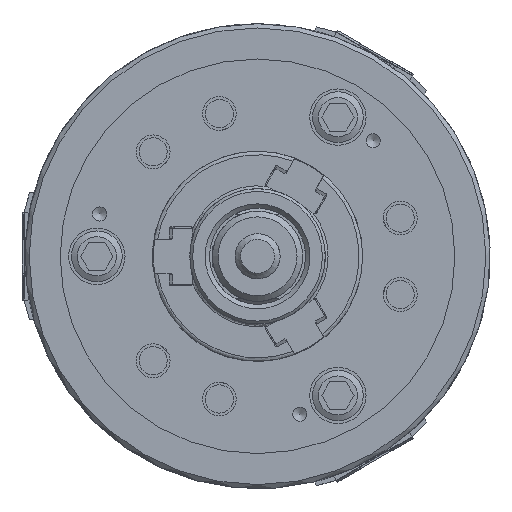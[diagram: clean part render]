
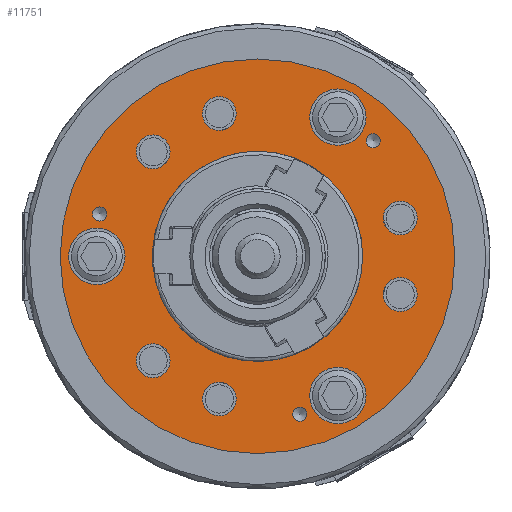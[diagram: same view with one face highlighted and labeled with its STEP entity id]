
A CAD part, left-side view. The second image highlights one B-rep face of the part: STEP entity #11751.
In plain terms, the highlighted planar face has unit normal (-1, 0, 0).
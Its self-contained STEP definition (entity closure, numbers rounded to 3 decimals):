
#518 = ORIENTED_EDGE ( 'NONE', *, *, #45012, .T. ) ;
#1409 = AXIS2_PLACEMENT_3D ( 'NONE', #8717, #12279, #38154 ) ;
#1432 = ORIENTED_EDGE ( 'NONE', *, *, #37770, .T. ) ;
#1449 = VERTEX_POINT ( 'NONE', #36641 ) ;
#1497 = VERTEX_POINT ( 'NONE', #13667 ) ;
#1733 = DIRECTION ( 'NONE',  ( 0., -0.866, -0.5 ) ) ;
#1902 = FACE_BOUND ( 'NONE', #5805, .T. ) ;
#2223 = EDGE_LOOP ( 'NONE', ( #34121 ) ) ;
#2481 = CARTESIAN_POINT ( 'NONE',  ( -69., 57., 10. ) ) ;
#3218 = EDGE_CURVE ( 'NONE', #41413, #41413, #17846, .T. ) ;
#3341 = DIRECTION ( 'NONE',  ( 0., 0.866, 0.5 ) ) ;
#3453 = DIRECTION ( 'NONE',  ( 0., 0., 1. ) ) ;
#3558 = EDGE_LOOP ( 'NONE', ( #46070 ) ) ;
#4256 = EDGE_CURVE ( 'NONE', #27614, #27614, #47270, .T. ) ;
#4536 = CARTESIAN_POINT ( 'NONE',  ( -69., 57., 0. ) ) ;
#4656 = CIRCLE ( 'NONE', #19337, 37.3 ) ;
#4835 = FACE_BOUND ( 'NONE', #3558, .T. ) ;
#5482 = AXIS2_PLACEMENT_3D ( 'NONE', #36402, #30079, #3341 ) ;
#5639 = EDGE_LOOP ( 'NONE', ( #19693 ) ) ;
#5763 = AXIS2_PLACEMENT_3D ( 'NONE', #4536, #24316, #8560 ) ;
#5805 = EDGE_LOOP ( 'NONE', ( #30756 ) ) ;
#6270 = CIRCLE ( 'NONE', #1409, 6. ) ;
#6331 = AXIS2_PLACEMENT_3D ( 'NONE', #37115, #26129, #25960 ) ;
#6560 = CARTESIAN_POINT ( 'NONE',  ( -69., -19.84, 54.363 ) ) ;
#6873 = CARTESIAN_POINT ( 'NONE',  ( -69., 37.045, 31.045 ) ) ;
#7354 = ORIENTED_EDGE ( 'NONE', *, *, #20054, .T. ) ;
#7422 = CARTESIAN_POINT ( 'NONE',  ( -69., -41.012, 41.012 ) ) ;
#7869 = VERTEX_POINT ( 'NONE', #35354 ) ;
#8046 = CIRCLE ( 'NONE', #28344, 10. ) ;
#8560 = DIRECTION ( 'NONE',  ( 0., 0., 1. ) ) ;
#8717 = CARTESIAN_POINT ( 'NONE',  ( -69., 13.56, -50.605 ) ) ;
#9457 = FACE_BOUND ( 'NONE', #30395, .T. ) ;
#9490 = CARTESIAN_POINT ( 'NONE',  ( -69., 56.024, 17.512 ) ) ;
#9589 = AXIS2_PLACEMENT_3D ( 'NONE', #34429, #38128, #23091 ) ;
#9833 = DIRECTION ( 'NONE',  ( 0., 0., 1. ) ) ;
#10285 = CARTESIAN_POINT ( 'NONE',  ( -69., -41.012, 43.512 ) ) ;
#10615 = FACE_BOUND ( 'NONE', #2223, .T. ) ;
#10723 = DIRECTION ( 'NONE',  ( 0., 0., 1. ) ) ;
#11751 = ADVANCED_FACE ( 'NONE', ( #40121, #41270, #36113, #1902, #10615, #38420, #38971, #19305, #9457, #4835, #43070, #33205, #23389, #13528 ), #29968, .T. ) ;
#12279 = DIRECTION ( 'NONE',  ( 1., 0., 0. ) ) ;
#12771 = ORIENTED_EDGE ( 'NONE', *, *, #33494, .F. ) ;
#12843 = EDGE_CURVE ( 'NONE', #19454, #19454, #21462, .T. ) ;
#13528 = FACE_BOUND ( 'NONE', #38980, .T. ) ;
#13667 = CARTESIAN_POINT ( 'NONE',  ( -69., 0., 37.3 ) ) ;
#13955 = DIRECTION ( 'NONE',  ( 0., 0., -1. ) ) ;
#14348 = EDGE_LOOP ( 'NONE', ( #24301 ) ) ;
#14460 = ORIENTED_EDGE ( 'NONE', *, *, #43794, .F. ) ;
#14756 = DIRECTION ( 'NONE',  ( 1., 0., 0. ) ) ;
#14856 = ORIENTED_EDGE ( 'NONE', *, *, #32059, .T. ) ;
#16533 = VERTEX_POINT ( 'NONE', #9490 ) ;
#16943 = EDGE_LOOP ( 'NONE', ( #41231 ) ) ;
#17569 = CARTESIAN_POINT ( 'NONE',  ( -69., 8.363, -47.605 ) ) ;
#17846 = CIRCLE ( 'NONE', #23394, 70. ) ;
#18902 = EDGE_CURVE ( 'NONE', #1497, #1497, #4656, .T. ) ;
#19176 = AXIS2_PLACEMENT_3D ( 'NONE', #28179, #28322, #35106 ) ;
#19305 = FACE_OUTER_BOUND ( 'NONE', #14348, .T. ) ;
#19337 = AXIS2_PLACEMENT_3D ( 'NONE', #40150, #14756, #10723 ) ;
#19454 = VERTEX_POINT ( 'NONE', #2481 ) ;
#19585 = CIRCLE ( 'NONE', #29246, 2.5 ) ;
#19630 = CIRCLE ( 'NONE', #24294, 6. ) ;
#19693 = ORIENTED_EDGE ( 'NONE', *, *, #37997, .F. ) ;
#19958 = VERTEX_POINT ( 'NONE', #47602 ) ;
#20054 = EDGE_CURVE ( 'NONE', #26407, #26407, #8046, .T. ) ;
#20152 = CARTESIAN_POINT ( 'NONE',  ( -69., -15.012, -53.524 ) ) ;
#20208 = CARTESIAN_POINT ( 'NONE',  ( -69., 13.56, 50.605 ) ) ;
#21155 = CIRCLE ( 'NONE', #19176, 2.5 ) ;
#21462 = CIRCLE ( 'NONE', #5763, 10. ) ;
#21536 = EDGE_LOOP ( 'NONE', ( #518 ) ) ;
#23091 = DIRECTION ( 'NONE',  ( 0., 0.866, 0.5 ) ) ;
#23389 = FACE_BOUND ( 'NONE', #31875, .T. ) ;
#23394 = AXIS2_PLACEMENT_3D ( 'NONE', #40315, #44225, #13955 ) ;
#23578 = CARTESIAN_POINT ( 'NONE',  ( -69., 0., -70. ) ) ;
#24294 = AXIS2_PLACEMENT_3D ( 'NONE', #35121, #46254, #34962 ) ;
#24301 = ORIENTED_EDGE ( 'NONE', *, *, #3218, .F. ) ;
#24316 = DIRECTION ( 'NONE',  ( -1., 0., 0. ) ) ;
#24558 = CARTESIAN_POINT ( 'NONE',  ( -69., 8.363, 47.605 ) ) ;
#25650 = CIRCLE ( 'NONE', #9589, 10. ) ;
#25896 = DIRECTION ( 'NONE',  ( -1., 0., 0. ) ) ;
#25960 = DIRECTION ( 'NONE',  ( 0., 0., 1. ) ) ;
#26129 = DIRECTION ( 'NONE',  ( -1., 0., 0. ) ) ;
#26407 = VERTEX_POINT ( 'NONE', #42784 ) ;
#26675 = CIRCLE ( 'NONE', #5482, 6. ) ;
#27614 = VERTEX_POINT ( 'NONE', #20152 ) ;
#28074 = AXIS2_PLACEMENT_3D ( 'NONE', #28532, #47091, #43849 ) ;
#28136 = CARTESIAN_POINT ( 'NONE',  ( -69., -28.5, -49.363 ) ) ;
#28179 = CARTESIAN_POINT ( 'NONE',  ( -69., 56.024, 15.012 ) ) ;
#28322 = DIRECTION ( 'NONE',  ( -1., 0., 0. ) ) ;
#28344 = AXIS2_PLACEMENT_3D ( 'NONE', #28136, #40343, #47768 ) ;
#28532 = CARTESIAN_POINT ( 'NONE',  ( -69., -50.605, -13.56 ) ) ;
#28788 = CARTESIAN_POINT ( 'NONE',  ( -69., -15.012, -56.024 ) ) ;
#29246 = AXIS2_PLACEMENT_3D ( 'NONE', #7422, #25896, #32962 ) ;
#29968 = PLANE ( 'NONE',  #6331 ) ;
#30079 = DIRECTION ( 'NONE',  ( 1., 0., 0. ) ) ;
#30395 = EDGE_LOOP ( 'NONE', ( #14856 ) ) ;
#30756 = ORIENTED_EDGE ( 'NONE', *, *, #12843, .F. ) ;
#31000 = CIRCLE ( 'NONE', #39017, 6. ) ;
#31008 = VERTEX_POINT ( 'NONE', #10285 ) ;
#31875 = EDGE_LOOP ( 'NONE', ( #35653 ) ) ;
#32059 = EDGE_CURVE ( 'NONE', #7869, #7869, #26675, .T. ) ;
#32591 = CIRCLE ( 'NONE', #28074, 6. ) ;
#32962 = DIRECTION ( 'NONE',  ( 0., 0., 1. ) ) ;
#33205 = FACE_BOUND ( 'NONE', #47414, .T. ) ;
#33494 = EDGE_CURVE ( 'NONE', #39683, #39683, #31000, .T. ) ;
#33577 = EDGE_CURVE ( 'NONE', #16533, #16533, #21155, .T. ) ;
#34015 = EDGE_LOOP ( 'NONE', ( #7354 ) ) ;
#34121 = ORIENTED_EDGE ( 'NONE', *, *, #18902, .T. ) ;
#34429 = CARTESIAN_POINT ( 'NONE',  ( -69., -28.5, 49.363 ) ) ;
#34841 = EDGE_LOOP ( 'NONE', ( #42163 ) ) ;
#34962 = DIRECTION ( 'NONE',  ( 0., 0., -1. ) ) ;
#35106 = DIRECTION ( 'NONE',  ( 0., 0., 1. ) ) ;
#35121 = CARTESIAN_POINT ( 'NONE',  ( -69., 37.045, 37.045 ) ) ;
#35354 = CARTESIAN_POINT ( 'NONE',  ( -69., -45.409, 16.56 ) ) ;
#35653 = ORIENTED_EDGE ( 'NONE', *, *, #41502, .T. ) ;
#36113 = FACE_BOUND ( 'NONE', #34841, .T. ) ;
#36402 = CARTESIAN_POINT ( 'NONE',  ( -69., -50.605, 13.56 ) ) ;
#36502 = DIRECTION ( 'NONE',  ( -1., 0., 0. ) ) ;
#36641 = CARTESIAN_POINT ( 'NONE',  ( -69., -45.409, -16.56 ) ) ;
#37115 = CARTESIAN_POINT ( 'NONE',  ( -69., 35., -60.622 ) ) ;
#37770 = EDGE_CURVE ( 'NONE', #44342, #44342, #19630, .T. ) ;
#37997 = EDGE_CURVE ( 'NONE', #31008, #31008, #19585, .T. ) ;
#38128 = DIRECTION ( 'NONE',  ( 1., 0., 0. ) ) ;
#38154 = DIRECTION ( 'NONE',  ( 0., -0.866, 0.5 ) ) ;
#38167 = DIRECTION ( 'NONE',  ( -1., 0., 0. ) ) ;
#38420 = FACE_BOUND ( 'NONE', #34015, .T. ) ;
#38481 = VERTEX_POINT ( 'NONE', #6560 ) ;
#38811 = EDGE_CURVE ( 'NONE', #1449, #1449, #32591, .T. ) ;
#38971 = FACE_BOUND ( 'NONE', #21536, .T. ) ;
#38980 = EDGE_LOOP ( 'NONE', ( #14460 ) ) ;
#39017 = AXIS2_PLACEMENT_3D ( 'NONE', #20208, #38167, #1733 ) ;
#39605 = DIRECTION ( 'NONE',  ( -1., 0., 0. ) ) ;
#39630 = AXIS2_PLACEMENT_3D ( 'NONE', #47930, #36502, #3453 ) ;
#39683 = VERTEX_POINT ( 'NONE', #24558 ) ;
#40121 = FACE_BOUND ( 'NONE', #16943, .T. ) ;
#40150 = CARTESIAN_POINT ( 'NONE',  ( -69., 0., 0. ) ) ;
#40315 = CARTESIAN_POINT ( 'NONE',  ( -69., 0., 0. ) ) ;
#40343 = DIRECTION ( 'NONE',  ( 1., 0., 0. ) ) ;
#41231 = ORIENTED_EDGE ( 'NONE', *, *, #33577, .F. ) ;
#41270 = FACE_BOUND ( 'NONE', #5639, .T. ) ;
#41413 = VERTEX_POINT ( 'NONE', #23578 ) ;
#41502 = EDGE_CURVE ( 'NONE', #41938, #41938, #6270, .T. ) ;
#41938 = VERTEX_POINT ( 'NONE', #17569 ) ;
#42163 = ORIENTED_EDGE ( 'NONE', *, *, #4256, .F. ) ;
#42784 = CARTESIAN_POINT ( 'NONE',  ( -69., -37.16, -44.363 ) ) ;
#43070 = FACE_BOUND ( 'NONE', #45317, .T. ) ;
#43794 = EDGE_CURVE ( 'NONE', #19958, #19958, #45988, .T. ) ;
#43849 = DIRECTION ( 'NONE',  ( 0., 0.866, -0.5 ) ) ;
#44225 = DIRECTION ( 'NONE',  ( 1., 0., 0. ) ) ;
#44342 = VERTEX_POINT ( 'NONE', #6873 ) ;
#45012 = EDGE_CURVE ( 'NONE', #38481, #38481, #25650, .T. ) ;
#45317 = EDGE_LOOP ( 'NONE', ( #12771 ) ) ;
#45988 = CIRCLE ( 'NONE', #39630, 6. ) ;
#46070 = ORIENTED_EDGE ( 'NONE', *, *, #38811, .F. ) ;
#46254 = DIRECTION ( 'NONE',  ( 1., 0., 0. ) ) ;
#47091 = DIRECTION ( 'NONE',  ( -1., 0., 0. ) ) ;
#47270 = CIRCLE ( 'NONE', #47849, 2.5 ) ;
#47414 = EDGE_LOOP ( 'NONE', ( #1432 ) ) ;
#47602 = CARTESIAN_POINT ( 'NONE',  ( -69., 37.045, -31.045 ) ) ;
#47768 = DIRECTION ( 'NONE',  ( 0., -0.866, 0.5 ) ) ;
#47849 = AXIS2_PLACEMENT_3D ( 'NONE', #28788, #39605, #9833 ) ;
#47930 = CARTESIAN_POINT ( 'NONE',  ( -69., 37.045, -37.045 ) ) ;
